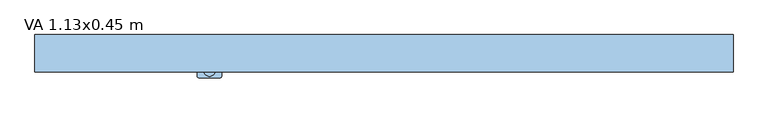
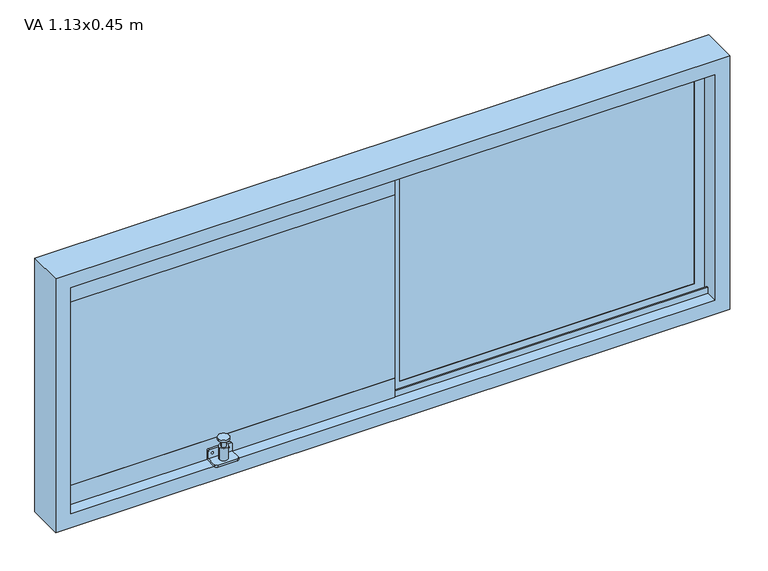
"""IFC4 building model written with IfcOpenShell, lengths in millimetres: window geometry, Ventana alta corrediza 2 cuerpos : VA 1.13x0.45 m."""

from ifc_helpers import new_model, si_unit, point, frame, frame_2d, origin, place, context, project, spatial, polyline, circle_curve, trimmed, segment, composite_curve, outline, extrude, faceted_brep, source, transform, mapped, element, save


def va_1_13x0_45_m_8709d312(model_context):
    return source(origin(), model_context, "Body", "SolidModel", [
        extrude(outline(composite_curve([segment(trimmed(circle_curve(frame_2d((-282.5, -28.2738075)), 9.1519646), [point((-273.3480354, -28.2738075))], [point((-291.6519646, -28.2738075))], False, "CARTESIAN"), True, "CONTINUOUS"), segment(trimmed(circle_curve(frame_2d((-282.5, -28.2738075)), 9.1519646), [point((-291.6519646, -28.2738075))], [point((-273.3480354, -28.2738075))], False, "CARTESIAN"), True, "CONTINUOUS")], self_intersect=False)), frame((0.0, 0.0, 1666.1518437), z_axis=(0.0, 0.0, 1.0), x_axis=(1.0, 0.0, 0.0)), (0.0, 0.0, 1.0), 3.4852564),
        extrude(outline(composite_curve([segment(trimmed(circle_curve(frame_2d((-282.5, -28.2738075)), 4.1308937), [point((-278.3691063, -28.2738075))], [point((-286.6308937, -28.2738075))], False, "CARTESIAN"), True, "CONTINUOUS"), segment(trimmed(circle_curve(frame_2d((-282.5, -28.2738075)), 4.1308937), [point((-286.6308937, -28.2738075))], [point((-278.3691063, -28.2738075))], False, "CARTESIAN"), True, "CONTINUOUS")], self_intersect=False)), frame((0.0, 0.0, 1653.913316), z_axis=(0.0, 0.0, 1.0), x_axis=(1.0, 0.0, 0.0)), (0.0, 0.0, 1.0), 12.2385277),
        extrude(outline(composite_curve([segment(trimmed(circle_curve(frame_2d((-282.5, -28.2738075)), 7.026694), [point((-275.473306, -28.2738075))], [point((-289.526694, -28.2738075))], False, "CARTESIAN"), True, "CONTINUOUS"), segment(trimmed(circle_curve(frame_2d((-282.5, -28.2738075)), 7.026694), [point((-289.526694, -28.2738075))], [point((-275.473306, -28.2738075))], False, "CARTESIAN"), True, "CONTINUOUS")], self_intersect=False)), frame((0.0, 0.0, 1632.1776083), z_axis=(0.0, 0.0, 1.0), x_axis=(1.0, 0.0, 0.0)), (0.0, 0.0, 1.0), 21.7357077),
        extrude(outline(composite_curve([segment(trimmed(circle_curve(frame_2d((1645.1933283, -264.48428)), 1.98428), [point((1645.1933283, -262.5))], [point((1647.1776083, -264.48428))], False, "CARTESIAN"), True, "CONTINUOUS"), segment(polyline([(1647.1776083, -264.48428), (1647.1776083, -300.51572)]), True, "CONTINUOUS"), segment(trimmed(circle_curve(frame_2d((1645.1933283, -300.51572)), 1.98428), [point((1647.1776083, -300.51572))], [point((1645.1933283, -302.5))], False, "CARTESIAN"), True, "CONTINUOUS"), segment(polyline([(1645.1933283, -302.5), (1632.1776083, -302.5), (1632.1776083, -262.5), (1645.1933283, -262.5)]), True, "CONTINUOUS")], self_intersect=False), holes=[composite_curve([segment(trimmed(circle_curve(frame_2d((1640.5771467, -269.1646221)), 1.6750611), [point((1640.5771467, -267.4895609))], [point((1640.5771467, -270.8396832))], True, "CARTESIAN"), True, "CONTINUOUS"), segment(trimmed(circle_curve(frame_2d((1640.5771467, -269.1646221)), 1.6750611), [point((1640.5771467, -270.8396832))], [point((1640.5771467, -267.4895609))], True, "CARTESIAN"), True, "CONTINUOUS")], self_intersect=False), composite_curve([segment(trimmed(circle_curve(frame_2d((1640.5771467, -295.8353779)), 1.6750611), [point((1640.5771467, -297.5104391))], [point((1640.5771467, -294.1603168))], True, "CARTESIAN"), True, "CONTINUOUS"), segment(trimmed(circle_curve(frame_2d((1640.5771467, -295.8353779)), 1.6750611), [point((1640.5771467, -294.1603168))], [point((1640.5771467, -297.5104391))], True, "CARTESIAN"), True, "CONTINUOUS")], self_intersect=False)]), frame((0.0, -19.1218429, 0.0), z_axis=(0.0, 1.0, 0.0), x_axis=(0.0, 0.0, 1.0)), (0.0, 0.0, 1.0), 4.012039),
        extrude(outline(composite_curve([segment(polyline([(-302.5, -15.1098039), (-262.5, -15.1098039), (-262.5, -36.2721359)]), True, "CONTINUOUS"), segment(trimmed(circle_curve(frame_2d((-266.3376681, -36.2721359)), 3.8376681), [point((-262.5, -36.2721359))], [point((-266.3376681, -40.1098039))], False, "CARTESIAN"), True, "CONTINUOUS"), segment(polyline([(-266.3376681, -40.1098039), (-298.6623319, -40.1098039)]), True, "CONTINUOUS"), segment(trimmed(circle_curve(frame_2d((-298.6623319, -36.2721359)), 3.8376681), [point((-298.6623319, -40.1098039))], [point((-302.5, -36.2721359))], False, "CARTESIAN"), True, "CONTINUOUS"), segment(polyline([(-302.5, -36.2721359), (-302.5, -15.1098039)]), True, "CONTINUOUS")], self_intersect=False)), frame((0.0, 0.0, 1628.6104688), z_axis=(0.0, 0.0, 1.0), x_axis=(1.0, 0.0, 0.0)), (0.0, 0.0, 1.0), 3.5671395),
        extrude(outline(polyline([(-540.0, -13.9001865), (-540.0, -4.4001865), (12.5, -4.4001865), (12.5, -13.9001865), (-540.0, -13.9001865)])), frame((0.0, 0.0, 1648.9759668), z_axis=(0.0, 0.0, 1.0), x_axis=(1.0, 0.0, 0.0)), (0.0, 0.0, 1.0), 352.0480665),
        extrude(outline(polyline([(536.40625, 1.2096174), (16.09375, 1.2096174), (16.09375, 10.7096174), (536.40625, 10.7096174), (536.40625, 1.2096174)])), frame((0.0, 0.0, 1628.59375), z_axis=(0.0, 0.0, 1.0), x_axis=(1.0, 0.0, 0.0)), (0.0, 0.0, 1.0), 392.8125),
        extrude(outline(composite_curve([segment(polyline([(-10.2821926, 2025.0), (0.0, 2025.0), (0.0, 2022.9830324), (-8.0182357, 2022.9830324), (-8.0182357, 2014.1628008)]), True, "CONTINUOUS"), segment(trimmed(circle_curve(frame_2d((-9.1502142, 2014.8593269)), 1.3291064), [point((-8.0182357, 2014.1628008))], [point((-10.2821926, 2014.1628008))], False, "CARTESIAN"), True, "CONTINUOUS"), segment(polyline([(-10.2821926, 2014.1628008), (-10.2821926, 2025.0)]), True, "CONTINUOUS")], self_intersect=False)), frame((-540.0, 0.0, 0.0), z_axis=(1.0, 0.0, 0.0), x_axis=(0.0, 1.0, 0.0)), (0.0, 0.0, 1.0), 1080.0),
        extrude(outline(polyline([(-12.0251865, 2004.6177832), (-6.2751865, 2004.6177832), (-6.2751865, 2021.3895312), (-3.190569, 2021.3895312), (-3.190569, 1987.8460353), (-4.4001865, 1987.8460353), (-4.4001865, 2001.0240332), (-13.9001865, 2001.0240332), (-13.9001865, 1987.8460353), (-15.1098039, 1987.8460353), (-15.1098039, 2021.3895312), (-12.0251865, 2021.3895312), (-12.0251865, 2004.6177832)])), frame((-540.0, 0.0, 0.0), z_axis=(1.0, 0.0, 0.0), x_axis=(0.0, 1.0, 0.0)), (0.0, 0.0, 1.0), 552.5),
        extrude(outline(polyline([(-6.9867702, 2005.2900719), (-9.1501865, 2007.4534882), (-11.3136028, 2005.2900719), (-11.3136028, 2014.8233667), (-9.1501865, 2012.6599504), (-6.9867702, 2014.8233667), (-6.9867702, 2005.2900719)])), frame((-540.0, 0.0, 0.0), z_axis=(1.0, 0.0, 0.0), x_axis=(0.0, 1.0, 0.0)), (0.0, 0.0, 1.0), 552.5),
        faceted_brep([(29.2717479, 1.2096174, 2008.2282521), (29.2717479, 0.0, 2008.2282521), (29.2717479, 0.0, 1641.7717479), (29.2717479, 1.2096174, 1641.7717479), (16.09375, 10.7096174, 2021.40625), (16.09375, 1.2096174, 2021.40625), (16.09375, 1.2096174, 1628.59375), (16.09375, 10.7096174, 1628.59375), (29.2717479, 11.9192349, 2008.2282521), (29.2717479, 10.7096174, 2008.2282521), (29.2717479, 10.7096174, 1641.7717479), (29.2717479, 11.9192349, 1641.7717479), (12.5, 0.0, 2025.0), (12.5, 11.9192349, 2025.0), (12.5, 11.9192349, 1625.0), (12.5, 0.0, 1625.0), (523.2282521, 0.0, 1641.7717479), (523.2282521, 1.2096174, 1641.7717479), (536.40625, 1.2096174, 1628.59375), (536.40625, 10.7096174, 1628.59375), (523.2282521, 10.7096174, 1641.7717479), (523.2282521, 11.9192349, 1641.7717479), (540.0, 11.9192349, 1625.0), (540.0, 0.0, 1625.0), (523.2282521, 0.0, 2008.2282521), (523.2282521, 1.2096174, 2008.2282521), (536.40625, 1.2096174, 2021.40625), (536.40625, 10.7096174, 2021.40625), (523.2282521, 10.7096174, 2008.2282521), (523.2282521, 11.9192349, 2008.2282521), (540.0, 11.9192349, 2025.0), (540.0, 0.0, 2025.0)], [[[0, 1, 2, 3]], [[4, 5, 6, 7]], [[8, 9, 10, 11]], [[12, 13, 14, 15]], [[3, 2, 16, 17]], [[7, 6, 18, 19]], [[11, 10, 20, 21]], [[15, 14, 22, 23]], [[17, 16, 24, 25]], [[19, 18, 26, 27]], [[21, 20, 28, 29]], [[23, 22, 30, 31]], [[15, 23, 31, 12], [1, 24, 16, 2]], [[25, 24, 1, 0]], [[5, 26, 18, 6], [3, 17, 25, 0]], [[27, 26, 5, 4]], [[7, 19, 27, 4], [9, 28, 20, 10]], [[29, 28, 9, 8]], [[13, 30, 22, 14], [11, 21, 29, 8]], [[31, 30, 13, 12]]]),
        extrude(outline(polyline([(12.5, 0.0), (-12.5, 0.0), (-12.5, 30.15), (12.5, 30.15), (12.5, 0.0)])), frame((0.0, 0.0, 1625.0), z_axis=(0.0, 0.0, 1.0), x_axis=(1.0, 0.0, 0.0)), (0.0, 0.0, 1.0), 400.0),
        extrude(outline(polyline([(1600.0, -565.0), (1600.0, 565.0), (2050.0, 565.0), (2050.0, -565.0), (1600.0, -565.0)]), holes=[polyline([(2025.0, -540.0), (2025.0, 540.0), (1625.0, 540.0), (1625.0, -540.0), (2025.0, -540.0)])]), frame((0.0, -30.15, 0.0), z_axis=(0.0, 1.0, 0.0), x_axis=(0.0, 0.0, 1.0)), (0.0, 0.0, 1.0), 60.3),
        extrude(outline(polyline([(-3.190569, 1662.1539647), (-3.190569, 1628.6104688), (-6.2751865, 1628.6104688), (-6.2751865, 1645.3822168), (-12.0251865, 1645.3822168), (-12.0251865, 1628.6104688), (-15.1098039, 1628.6104688), (-15.1098039, 1662.1539647), (-13.9001865, 1662.1539647), (-13.9001865, 1648.9759668), (-4.4001865, 1648.9759668), (-4.4001865, 1662.1539647), (-3.190569, 1662.1539647)])), frame((-540.0, 0.0, 0.0), z_axis=(1.0, 0.0, 0.0), x_axis=(0.0, 1.0, 0.0)), (0.0, 0.0, 1.0), 552.5),
        extrude(outline(polyline([(-9.1501865, 1642.5465118), (-6.9867702, 1644.7099281), (-6.9867702, 1635.1766333), (-9.1501865, 1637.3400496), (-11.3136028, 1635.1766333), (-11.3136028, 1644.7099281), (-9.1501865, 1642.5465118)])), frame((-540.0, 0.0, 0.0), z_axis=(1.0, 0.0, 0.0), x_axis=(0.0, 1.0, 0.0)), (0.0, 0.0, 1.0), 552.5),
        extrude(outline(composite_curve([segment(polyline([(-10.2821926, 1625.0), (-10.2821926, 1635.8371992)]), True, "CONTINUOUS"), segment(trimmed(circle_curve(frame_2d((-9.1502142, 1635.1406731)), 1.3291064), [point((-10.2821926, 1635.8371992))], [point((-8.0182357, 1635.8371992))], False, "CARTESIAN"), True, "CONTINUOUS"), segment(polyline([(-8.0182357, 1635.8371992), (-8.0182357, 1627.0169676), (0.0, 1627.0169676), (0.0, 1625.0), (-10.2821926, 1625.0)]), True, "CONTINUOUS")], self_intersect=False)), frame((-540.0, 0.0, 0.0), z_axis=(1.0, 0.0, 0.0), x_axis=(0.0, 1.0, 0.0)), (0.0, 0.0, 1.0), 1080.0),
    ])


if __name__ == "__main__":
    model = new_model("IFC4")
    model_context = context("Model", 3, world=origin())
    ifc_project = project(units=[si_unit("LENGTHUNIT", "METRE", prefix="MILLI")], contexts=[model_context])
    site = spatial("IfcSite", under=ifc_project)
    building = spatial("IfcBuilding", under=site)
    placement = place(None, origin())
    va_1_13x0_45_m_shape = va_1_13x0_45_m_8709d312(model_context)
    element("IfcWindow", 1, ObjectType="Ventana alta corrediza 2 cuerpos : VA 1.13x0.45 m", at=placement, inside=building, context=model_context, shape_type="MappedRepresentation", body=[
        mapped(va_1_13x0_45_m_shape, transform((0.0, 0.0, 0.0), x_axis=(1.0, 0.0, 0.0), y_axis=(0.0, 1.0, 0.0), z_axis=(0.0, 0.0, 1.0))),
    ])
    save(model, "model.ifc")
